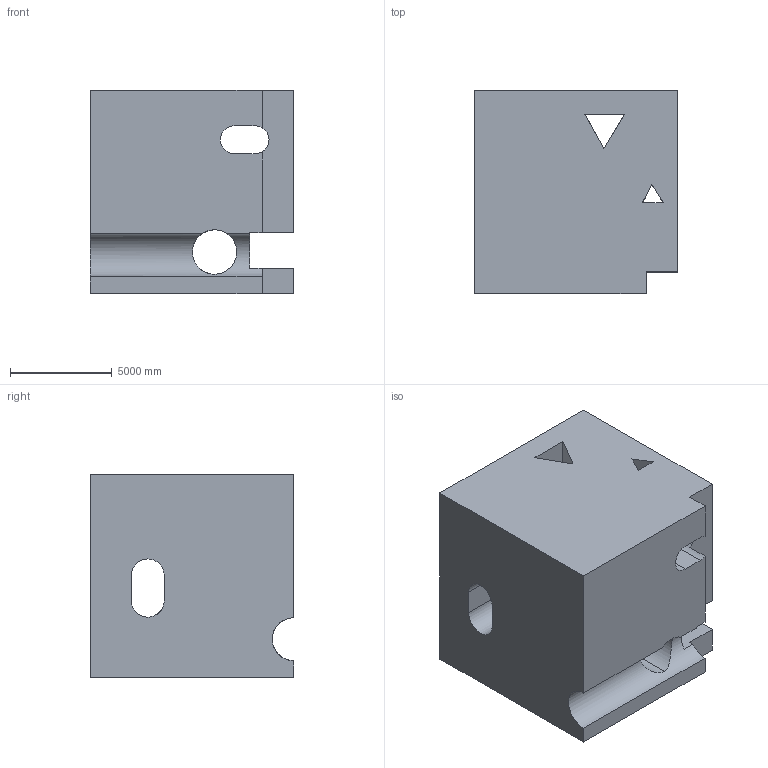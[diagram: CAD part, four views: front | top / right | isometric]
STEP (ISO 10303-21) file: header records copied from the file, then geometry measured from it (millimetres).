
FILE_DESCRIPTION (( 'STEP AP203' ), '1' );
FILE_NAME ('829.STEP', '2022-07-29T13:31:45', ( 'user' ), ( '' ), 'SwSTEP 2.0', 'SolidWorks 2021', '' );
FILE_SCHEMA (( 'CONFIG_CONTROL_DESIGN' ));
Length unit declared in the file: centimetre
Products named in the file (1): 829
Bounding box: 10000 x 10000 x 10000 mm (x, y, z)
Volume: 813516342715.4 mm3; surface area: 872971346.7 mm2
Topology: 1 solids, 1 shells, 48 faces, 168 edges, 112 vertices
Faces by surface type: plane 37, cylinder 11
Entity records: 2462 total; most frequent: CARTESIAN_POINT 928, ORIENTED_EDGE 336, DIRECTION 272, EDGE_CURVE 168, VECTOR 122, LINE 122, VERTEX_POINT 112, AXIS2_PLACEMENT_3D 75
